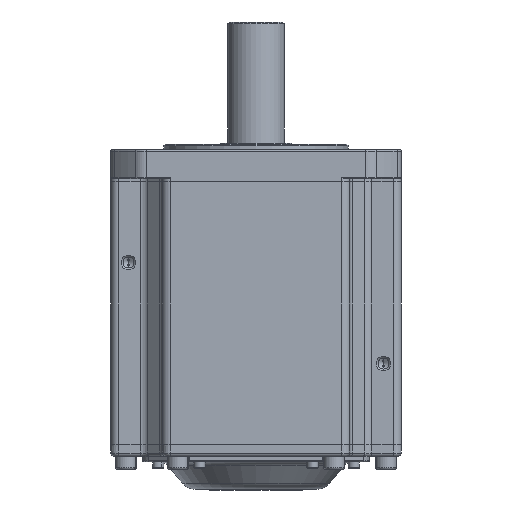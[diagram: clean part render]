
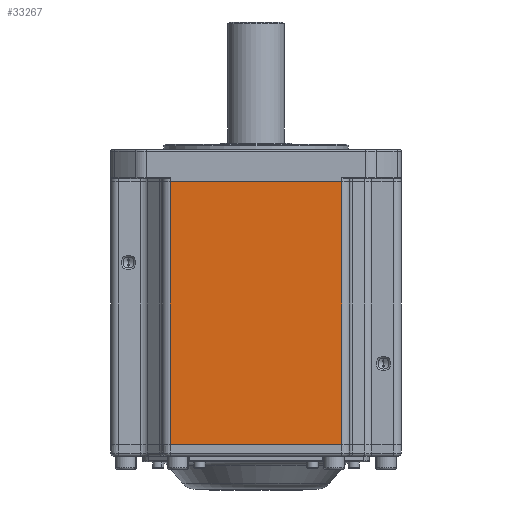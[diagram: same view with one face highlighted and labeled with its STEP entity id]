
A CAD part, front view. The second image highlights one B-rep face of the part: STEP entity #33267.
In plain terms, the highlighted planar face has unit normal (0, -1, 0).
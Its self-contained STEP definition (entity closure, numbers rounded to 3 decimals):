
#810 = CARTESIAN_POINT ( 'NONE',  ( -154.318, -89.007, -59.273 ) ) ;
#3345 = CARTESIAN_POINT ( 'NONE',  ( 53.026, -89.007, -59.273 ) ) ;
#4671 = ORIENTED_EDGE ( 'NONE', *, *, #5638, .T. ) ;
#4695 = CARTESIAN_POINT ( 'NONE',  ( -52.974, -89.007, 103.327 ) ) ;
#5607 = EDGE_LOOP ( 'NONE', ( #61177, #32342, #43883, #4671 ) ) ;
#5638 = EDGE_CURVE ( 'NONE', #37837, #8104, #43471, .T. ) ;
#5747 = CARTESIAN_POINT ( 'NONE',  ( -52.974, -89.007, -59.273 ) ) ;
#7900 = CARTESIAN_POINT ( 'NONE',  ( 53.026, -89.007, 103.327 ) ) ;
#8104 = VERTEX_POINT ( 'NONE', #4695 ) ;
#10778 = LINE ( 'NONE', #11334, #15530 ) ;
#11334 = CARTESIAN_POINT ( 'NONE',  ( 53.026, -89.007, -896.673 ) ) ;
#14526 = EDGE_CURVE ( 'NONE', #47213, #37837, #10778, .T. ) ;
#14638 = CARTESIAN_POINT ( 'NONE',  ( 58.026, -89.007, -896.673 ) ) ;
#14770 = DIRECTION ( 'NONE',  ( 0., 0., -1. ) ) ;
#15530 = VECTOR ( 'NONE', #50135, 1000. ) ;
#19176 = CARTESIAN_POINT ( 'NONE',  ( 58.026, -89.007, 103.327 ) ) ;
#21446 = EDGE_CURVE ( 'NONE', #46898, #47213, #31217, .T. ) ;
#24594 = DIRECTION ( 'NONE',  ( 0., 0., -1. ) ) ;
#25139 = CARTESIAN_POINT ( 'NONE',  ( -52.974, -89.007, -896.673 ) ) ;
#28468 = PLANE ( 'NONE',  #62829 ) ;
#30395 = VECTOR ( 'NONE', #53228, 1000. ) ;
#31217 = LINE ( 'NONE', #810, #62702 ) ;
#32342 = ORIENTED_EDGE ( 'NONE', *, *, #21446, .T. ) ;
#33267 = ADVANCED_FACE ( 'NONE', ( #41885 ), #28468, .F. ) ;
#34176 = LINE ( 'NONE', #25139, #60335 ) ;
#37837 = VERTEX_POINT ( 'NONE', #7900 ) ;
#40256 = DIRECTION ( 'NONE',  ( 1., 0., 0. ) ) ;
#41885 = FACE_OUTER_BOUND ( 'NONE', #5607, .T. ) ;
#42400 = EDGE_CURVE ( 'NONE', #8104, #46898, #34176, .T. ) ;
#43471 = LINE ( 'NONE', #19176, #30395 ) ;
#43883 = ORIENTED_EDGE ( 'NONE', *, *, #14526, .T. ) ;
#46898 = VERTEX_POINT ( 'NONE', #5747 ) ;
#47213 = VERTEX_POINT ( 'NONE', #3345 ) ;
#49091 = DIRECTION ( 'NONE',  ( 0., 1., 0. ) ) ;
#50135 = DIRECTION ( 'NONE',  ( 0., 0., 1. ) ) ;
#53228 = DIRECTION ( 'NONE',  ( -1., 0., 0. ) ) ;
#60335 = VECTOR ( 'NONE', #14770, 1000. ) ;
#61177 = ORIENTED_EDGE ( 'NONE', *, *, #42400, .T. ) ;
#62702 = VECTOR ( 'NONE', #40256, 1000. ) ;
#62829 = AXIS2_PLACEMENT_3D ( 'NONE', #14638, #49091, #24594 ) ;
